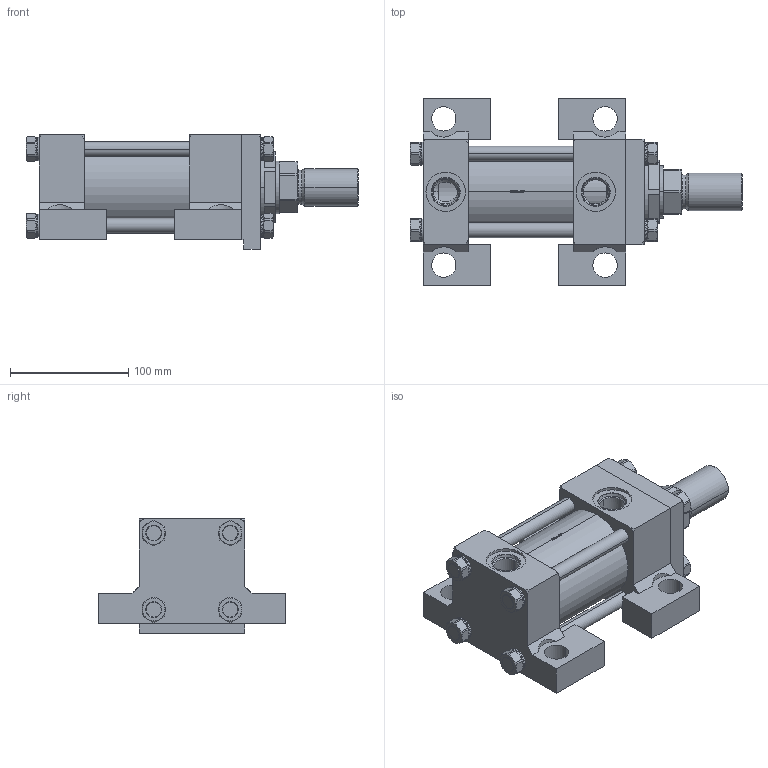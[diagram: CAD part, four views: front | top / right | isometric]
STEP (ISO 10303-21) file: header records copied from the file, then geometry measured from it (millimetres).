
FILE_DESCRIPTION (( 'STEP AP214' ), '1' );
FILE_NAME ('2.50CP2HHNAT124A2.000.step', '2026-03-26T21:16:24', ( '' ), ( '' ), 'SwSTEP 2.0', 'SolidWorks 2023', '' );
FILE_SCHEMA (( 'AUTOMOTIVE_DESIGN' ));
Length unit declared in the file: inch
Products named in the file (1): 2.50CP2HHNAT124A2.000
Bounding box: 280.99 x 158.75 x 96.84 mm (x, y, z)
Volume: 1369531 mm3; surface area: 298616.3 mm2
Topology: 46 solids, 46 shells, 1236 faces, 3193 edges, 2056 vertices
Faces by surface type: plane 808, cylinder 221, cone 161, bspline 38, torus 8
Entity records: 55814 total; most frequent: CARTESIAN_POINT 10976, ORIENTED_EDGE 6386, DIRECTION 5216, EDGE_CURVE 3193, VERTEX_POINT 2056, AXIS2_PLACEMENT_3D 1764, VECTOR 1688, LINE 1688
